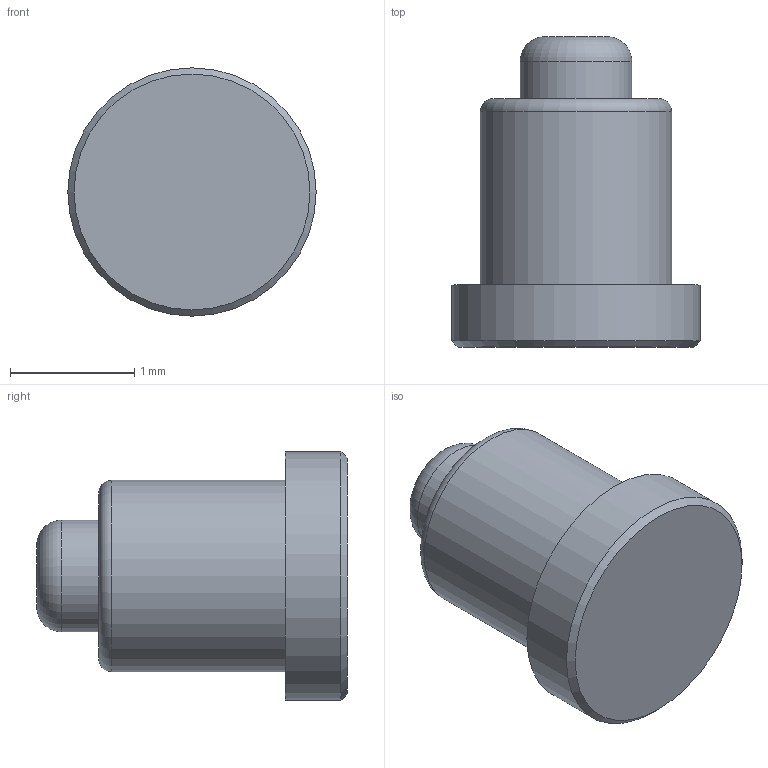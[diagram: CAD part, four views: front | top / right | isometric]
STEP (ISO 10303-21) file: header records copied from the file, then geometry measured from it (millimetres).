
FILE_DESCRIPTION(/* description */ (''),/* implementation_level */ '2;1');
FILE_NAME(/* name */ 'POGO_3mm.step',/* time_stamp */ '2026-10-02T08:17:08+02:00',/* author */ (''),/* organization */ (''),/* preprocessor_version */ 'ST-DEVELOPER v20.2',/* originating_system */ 'Autodesk Translation Framework v15.15.0.0',/* authorisation */ '');
FILE_SCHEMA (('AUTOMOTIVE_DESIGN { 1 0 10303 214 3 1 1 }'));
Length unit declared in the file: millimetre
Products named in the file (1): POGO_3mm
Bounding box: 2 x 2.5 x 2 mm (x, y, z)
Volume: 4.6 mm3; surface area: 17.4 mm2
Topology: 1 solids, 1 shells, 10 faces, 17 edges, 11 vertices
Faces by surface type: plane 4, cylinder 3, torus 2, cone 1
Full cylindrical faces by diameter (mm): 0.9 x1, 1.54 x1, 2 x1
Entity records: 286 total; most frequent: DIRECTION 52, CARTESIAN_POINT 39, ORIENTED_EDGE 34, AXIS2_PLACEMENT_3D 24, EDGE_CURVE 17, CIRCLE 13, EDGE_LOOP 12, VERTEX_POINT 11
